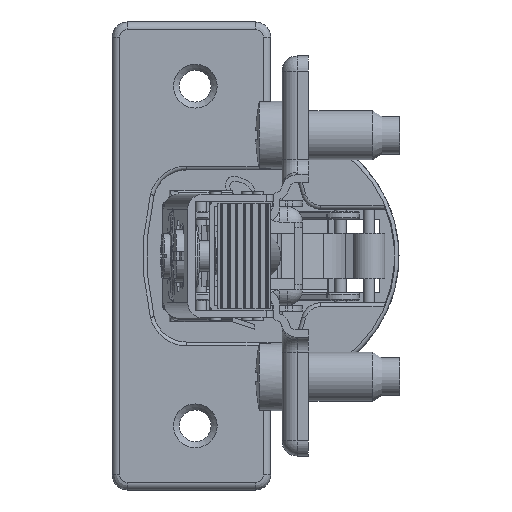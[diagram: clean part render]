
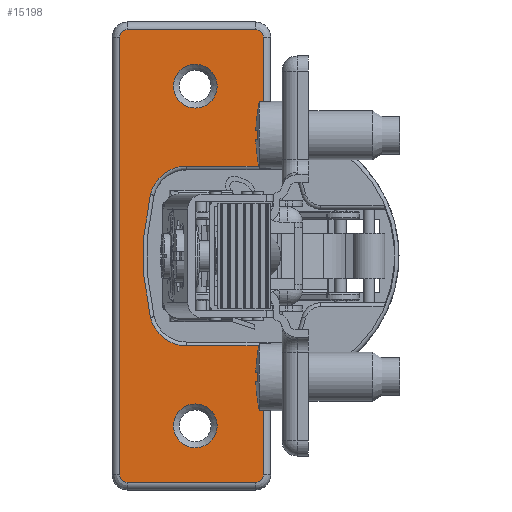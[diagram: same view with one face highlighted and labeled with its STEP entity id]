
A CAD part, left-side view. The second image highlights one B-rep face of the part: STEP entity #15198.
In plain terms, the highlighted planar face has unit normal (-1, 0, 0) as drawn and (0.158, 0.987, 0) by its records, which use the part's own axes.
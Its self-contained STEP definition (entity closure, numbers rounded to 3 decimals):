
#498=FACE_BOUND('',#3154,.T.);
#499=FACE_BOUND('',#3155,.T.);
#1294=CIRCLE('',#16297,2.9);
#1296=CIRCLE('',#16300,2.9);
#1324=CIRCLE('',#16341,4.9);
#1327=CIRCLE('',#16345,34.9);
#1330=CIRCLE('',#16349,4.9);
#1437=CIRCLE('',#16540,1.);
#1441=CIRCLE('',#16545,1.);
#1445=CIRCLE('',#16550,1.);
#1449=CIRCLE('',#16555,1.);
#2240=FACE_OUTER_BOUND('',#3153,.T.);
#3153=EDGE_LOOP('',(#12237,#12238,#12239,#12240,#12241,#12242,#12243,#12244,
#12245,#12246,#12247,#12248,#12249,#12250));
#3154=EDGE_LOOP('',(#12251));
#3155=EDGE_LOOP('',(#12252));
#4128=LINE('',#25499,#5316);
#4130=LINE('',#25523,#5318);
#4215=LINE('',#25949,#5403);
#4216=LINE('',#25968,#5404);
#4218=LINE('',#25988,#5406);
#4220=LINE('',#26008,#5408);
#4222=LINE('',#26024,#5410);
#5316=VECTOR('',#19490,10.172);
#5318=VECTOR('',#19520,10.172);
#5403=VECTOR('',#19977,17.1);
#5404=VECTOR('',#19988,17.);
#5406=VECTOR('',#20000,58.);
#5408=VECTOR('',#20012,17.);
#5410=VECTOR('',#20022,17.1);
#6572=VERTEX_POINT('',#25273);
#6574=VERTEX_POINT('',#25278);
#6610=VERTEX_POINT('',#25491);
#6612=VERTEX_POINT('',#25497);
#6614=VERTEX_POINT('',#25503);
#6616=VERTEX_POINT('',#25509);
#6618=VERTEX_POINT('',#25515);
#6620=VERTEX_POINT('',#25521);
#6728=VERTEX_POINT('',#25947);
#6730=VERTEX_POINT('',#25960);
#6732=VERTEX_POINT('',#25966);
#6734=VERTEX_POINT('',#25980);
#6736=VERTEX_POINT('',#25986);
#6738=VERTEX_POINT('',#26000);
#6740=VERTEX_POINT('',#26006);
#6741=VERTEX_POINT('',#26019);
#8355=EDGE_CURVE('',#6572,#6572,#1294,.T.);
#8357=EDGE_CURVE('',#6574,#6574,#1296,.T.);
#8408=EDGE_CURVE('',#6612,#6610,#4128,.T.);
#8411=EDGE_CURVE('',#6614,#6612,#1324,.T.);
#8414=EDGE_CURVE('',#6616,#6614,#1327,.T.);
#8417=EDGE_CURVE('',#6618,#6616,#1330,.T.);
#8420=EDGE_CURVE('',#6620,#6618,#4130,.T.);
#8615=EDGE_CURVE('',#6728,#6620,#4215,.T.);
#8617=EDGE_CURVE('',#6730,#6728,#1437,.T.);
#8620=EDGE_CURVE('',#6732,#6730,#4216,.T.);
#8623=EDGE_CURVE('',#6734,#6732,#1441,.T.);
#8626=EDGE_CURVE('',#6736,#6734,#4218,.T.);
#8629=EDGE_CURVE('',#6738,#6736,#1445,.T.);
#8632=EDGE_CURVE('',#6740,#6738,#4220,.T.);
#8635=EDGE_CURVE('',#6741,#6740,#1449,.T.);
#8637=EDGE_CURVE('',#6610,#6741,#4222,.T.);
#12237=ORIENTED_EDGE('',*,*,#8420,.F.);
#12238=ORIENTED_EDGE('',*,*,#8615,.F.);
#12239=ORIENTED_EDGE('',*,*,#8617,.F.);
#12240=ORIENTED_EDGE('',*,*,#8620,.F.);
#12241=ORIENTED_EDGE('',*,*,#8623,.F.);
#12242=ORIENTED_EDGE('',*,*,#8626,.F.);
#12243=ORIENTED_EDGE('',*,*,#8629,.F.);
#12244=ORIENTED_EDGE('',*,*,#8632,.F.);
#12245=ORIENTED_EDGE('',*,*,#8635,.F.);
#12246=ORIENTED_EDGE('',*,*,#8637,.F.);
#12247=ORIENTED_EDGE('',*,*,#8408,.F.);
#12248=ORIENTED_EDGE('',*,*,#8411,.F.);
#12249=ORIENTED_EDGE('',*,*,#8414,.F.);
#12250=ORIENTED_EDGE('',*,*,#8417,.F.);
#12251=ORIENTED_EDGE('',*,*,#8355,.T.);
#12252=ORIENTED_EDGE('',*,*,#8357,.T.);
#13636=PLANE('',#16588);
#15198=ADVANCED_FACE('',(#2240,#498,#499),#13636,.F.);
#16297=AXIS2_PLACEMENT_3D('',#25274,#19391,#19392);
#16300=AXIS2_PLACEMENT_3D('',#25279,#19397,#19398);
#16341=AXIS2_PLACEMENT_3D('',#25505,#19496,#19497);
#16345=AXIS2_PLACEMENT_3D('',#25511,#19504,#19505);
#16349=AXIS2_PLACEMENT_3D('',#25517,#19512,#19513);
#16540=AXIS2_PLACEMENT_3D('',#25962,#19980,#19981);
#16545=AXIS2_PLACEMENT_3D('',#25982,#19992,#19993);
#16550=AXIS2_PLACEMENT_3D('',#26002,#20004,#20005);
#16555=AXIS2_PLACEMENT_3D('',#26021,#20016,#20017);
#16588=AXIS2_PLACEMENT_3D('',#26100,#20108,#20109);
#19391=DIRECTION('center_axis',(-0.158,-0.987,0.));
#19392=DIRECTION('ref_axis',(0.987,-0.158,0.));
#19397=DIRECTION('center_axis',(-0.158,-0.987,0.));
#19398=DIRECTION('ref_axis',(0.987,-0.158,0.));
#19490=DIRECTION('',(-0.987,0.158,0.));
#19496=DIRECTION('center_axis',(0.158,0.987,0.));
#19497=DIRECTION('ref_axis',(0.611,-0.098,-0.785));
#19504=DIRECTION('center_axis',(0.158,0.987,0.));
#19505=DIRECTION('ref_axis',(0.987,-0.158,0.));
#19512=DIRECTION('center_axis',(0.158,0.987,0.));
#19513=DIRECTION('ref_axis',(0.611,-0.098,0.785));
#19520=DIRECTION('',(0.987,-0.158,0.));
#19977=DIRECTION('',(0.,0.,-1.));
#19980=DIRECTION('center_axis',(-0.158,-0.987,0.));
#19981=DIRECTION('ref_axis',(-0.698,0.112,0.707));
#19988=DIRECTION('',(-0.987,0.158,0.));
#19992=DIRECTION('center_axis',(-0.158,-0.987,0.));
#19993=DIRECTION('ref_axis',(0.698,-0.112,0.707));
#20000=DIRECTION('',(0.,0.,1.));
#20004=DIRECTION('center_axis',(-0.158,-0.987,0.));
#20005=DIRECTION('ref_axis',(0.698,-0.112,-0.707));
#20012=DIRECTION('',(0.987,-0.158,0.));
#20016=DIRECTION('center_axis',(-0.158,-0.987,0.));
#20017=DIRECTION('ref_axis',(-0.698,0.112,-0.707));
#20022=DIRECTION('',(0.,0.,-1.));
#20108=DIRECTION('center_axis',(-0.158,-0.987,0.));
#20109=DIRECTION('ref_axis',(0.,0.,-1.));
#25273=CARTESIAN_POINT('',(98.105,17.053,-22.5));
#25274=CARTESIAN_POINT('Origin',(95.241,17.511,-22.5));
#25278=CARTESIAN_POINT('',(98.105,17.053,22.5));
#25279=CARTESIAN_POINT('Origin',(95.241,17.511,22.5));
#25491=CARTESIAN_POINT('',(86.355,18.934,-11.9));
#25497=CARTESIAN_POINT('',(96.399,17.326,-11.9));
#25499=CARTESIAN_POINT('',(90.121,18.331,-11.9));
#25503=CARTESIAN_POINT('',(101.103,16.572,-8.143));
#25505=CARTESIAN_POINT('Origin',(96.399,17.326,-7.));
#25509=CARTESIAN_POINT('',(101.103,16.572,8.143));
#25511=CARTESIAN_POINT('Origin',(67.594,21.939,0.));
#25515=CARTESIAN_POINT('',(96.399,17.326,11.9));
#25517=CARTESIAN_POINT('Origin',(96.399,17.326,7.));
#25521=CARTESIAN_POINT('',(86.355,18.934,11.9));
#25523=CARTESIAN_POINT('',(96.686,17.28,11.9));
#25947=CARTESIAN_POINT('',(86.355,18.934,29.));
#25949=CARTESIAN_POINT('',(86.355,18.934,5.7));
#25960=CARTESIAN_POINT('',(87.342,18.776,30.));
#25962=CARTESIAN_POINT('Origin',(87.342,18.776,29.));
#25966=CARTESIAN_POINT('',(104.128,16.088,30.));
#25968=CARTESIAN_POINT('',(92.158,18.005,30.));
#25980=CARTESIAN_POINT('',(105.116,15.93,29.));
#25982=CARTESIAN_POINT('Origin',(104.128,16.088,29.));
#25986=CARTESIAN_POINT('',(105.116,15.93,-29.));
#25988=CARTESIAN_POINT('',(105.116,15.93,14.5));
#26000=CARTESIAN_POINT('',(104.128,16.088,-30.));
#26002=CARTESIAN_POINT('Origin',(104.128,16.088,-29.));
#26006=CARTESIAN_POINT('',(87.342,18.776,-30.));
#26008=CARTESIAN_POINT('',(100.551,16.661,-30.));
#26019=CARTESIAN_POINT('',(86.355,18.934,-29.));
#26021=CARTESIAN_POINT('Origin',(87.342,18.776,-29.));
#26024=CARTESIAN_POINT('',(86.355,18.934,-14.5));
#26100=CARTESIAN_POINT('Origin',(96.973,17.234,0.));
